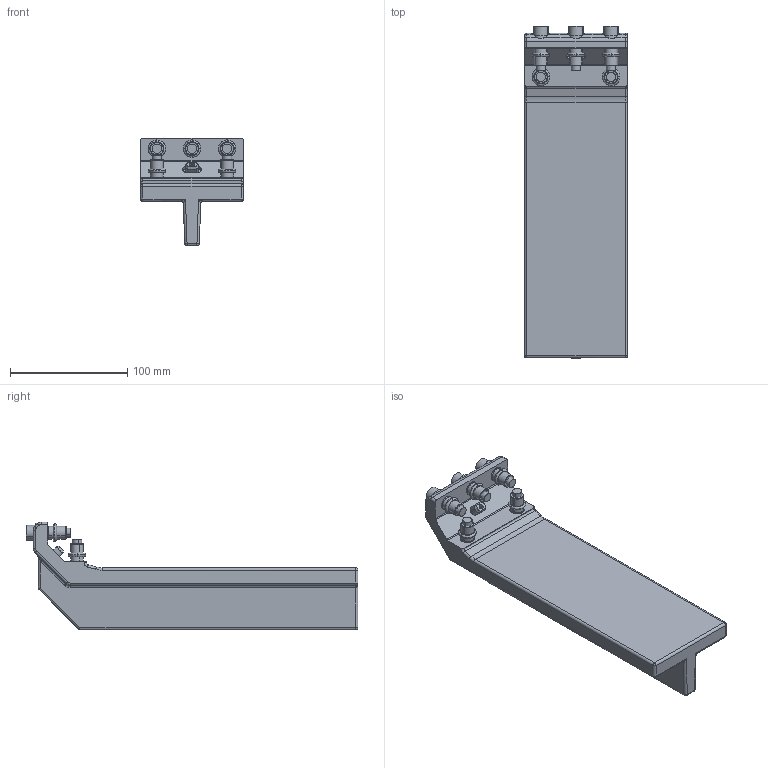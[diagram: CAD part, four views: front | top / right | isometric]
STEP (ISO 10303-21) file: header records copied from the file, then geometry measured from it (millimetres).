
FILE_DESCRIPTION(('STEP AP214'),'1');
FILE_NAME('EGT233_1698052_SEITENANB_RIP_AU_SW50.CATPart.stp','2015-09-14T13:14:34',('3D-Tool'),(' '),'Spatial InterOp 3D',' ',' ');
FILE_SCHEMA(('automotive_design'));
Length unit declared in the file: millimetre
Products named in the file (12): EGT233_1698052_SEITENANB_RIP_AU_SW50|5252149.1_Seitenanbindung Rippe aussen SW50|5252149.1_Seitenanbindung Rippe aussen SW50; EGT233_1698052_SEITENANB_RIP_AU_SW50|Schraube_M8x30.1_Hauptkörper|Schraube_M8x30.1_Hauptkörper; EGT233_1698052_SEITENANB_RIP_AU_SW50|Schraube_M8x30.2_Hauptkörper|Schraube_M8x30.2_Hauptkörper; EGT233_1698052_SEITENANB_RIP_AU_SW50|Schraube_M8x30.3_Hauptkörper|Schraube_M8x30.3_Hauptkörper; EGT233_1698052_SEITENANB_RIP_AU_SW50|Schraube_M8x30.4_Hauptkörper|Schraube_M8x30.4_Hauptkörper; EGT233_1698052_SEITENANB_RIP_AU_SW50|Schraube_M8x30.5_Hauptkörper|Schraube_M8x30.5_Hauptkörper; EGT233_1698052_SEITENANB_RIP_AU_SW50|Eurosert_M8.1_Hauptkörper|Eurosert_M8.1_Hauptkörper; EGT233_1698052_SEITENANB_RIP_AU_SW50|Eurosert_M8.2_Hauptkörper|Eurosert_M8.2_Hauptkörper; EGT233_1698052_SEITENANB_RIP_AU_SW50|Eurosert_M8.3_Hauptkörper|Eurosert_M8.3_Hauptkörper; EGT233_1698052_SEITENANB_RIP_AU_SW50|Eurosert_M8.4_Hauptkörper|Eurosert_M8.4_Hauptkörper; EGT233_1698052_SEITENANB_RIP_AU_SW50|Eurosert_M8.5_Hauptkörper|Eurosert_M8.5_Hauptkörper; EGT233_1698052_SEITENANB_RIP_AU_SW50|5252162.1_Zentrierstift Vario-Handlingsystem|5252162.1_Zentrierstift Vario-Handlingsystem
Bounding box: 88 x 283.5 x 92 mm (x, y, z)
Volume: 540006.7 mm3; surface area: 100021.4 mm2
Topology: 12 solids, 12 shells, 345 faces, 878 edges, 571 vertices
Faces by surface type: cylinder 149, plane 112, torus 32, cone 32, sphere 10, bspline 10
Entity records: 13535 total; most frequent: CARTESIAN_POINT 4335, ORIENTED_EDGE 1732, EDGE_CURVE 866, DIRECTION 719, VERTEX_POINT 571, B_SPLINE_CURVE_WITH_KNOTS 413, EDGE_LOOP 395, STYLED_ITEM 357
